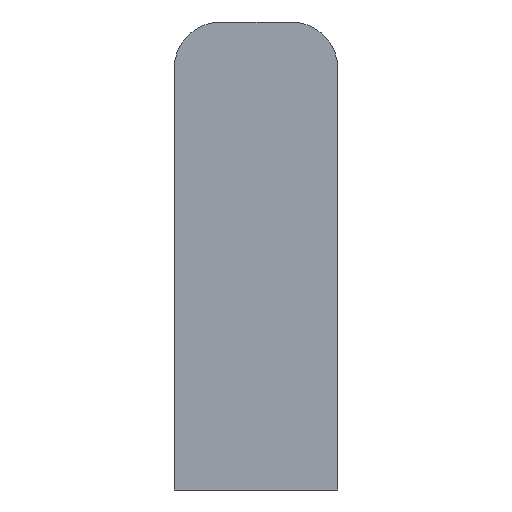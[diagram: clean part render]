
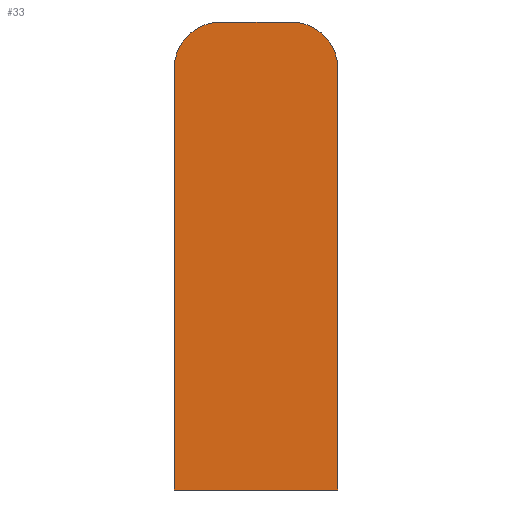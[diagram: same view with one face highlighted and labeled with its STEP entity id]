
A CAD part, front view. The second image highlights one B-rep face of the part: STEP entity #33.
In plain terms, the highlighted planar face has unit normal (0, -1, 0).
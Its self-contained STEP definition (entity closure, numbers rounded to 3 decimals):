
#8 = EDGE_CURVE ( 'NONE', #124, #140, #41, .T. ) ;
#16 = EDGE_CURVE ( 'NONE', #128, #124, #193, .T. ) ;
#33 = ADVANCED_FACE ( 'NONE', ( #206 ), #266, .F. ) ;
#41 = LINE ( 'NONE', #144, #177 ) ;
#49 = EDGE_LOOP ( 'NONE', ( #94, #93, #92, #91, #90, #89 ) ) ;
#89 = ORIENTED_EDGE ( 'NONE', *, *, #16, .T. ) ;
#90 = ORIENTED_EDGE ( 'NONE', *, *, #407, .T. ) ;
#91 = ORIENTED_EDGE ( 'NONE', *, *, #410, .T. ) ;
#92 = ORIENTED_EDGE ( 'NONE', *, *, #409, .T. ) ;
#93 = ORIENTED_EDGE ( 'NONE', *, *, #408, .T. ) ;
#94 = ORIENTED_EDGE ( 'NONE', *, *, #8, .T. ) ;
#121 = DIRECTION ( 'NONE',  ( 0., 0., 1. ) ) ;
#124 = VERTEX_POINT ( 'NONE', #305 ) ;
#128 = VERTEX_POINT ( 'NONE', #315 ) ;
#130 = VERTEX_POINT ( 'NONE', #316 ) ;
#134 = VERTEX_POINT ( 'NONE', #322 ) ;
#136 = VERTEX_POINT ( 'NONE', #324 ) ;
#140 = VERTEX_POINT ( 'NONE', #328 ) ;
#144 = CARTESIAN_POINT ( 'NONE',  ( 5.25, 0., -16.5 ) ) ;
#148 = VECTOR ( 'NONE', #371, 1000. ) ;
#151 = CIRCLE ( 'NONE', #165, 3. ) ;
#152 = CIRCLE ( 'NONE', #170, 3. ) ;
#165 = AXIS2_PLACEMENT_3D ( 'NONE', #359, #368, #369 ) ;
#170 = AXIS2_PLACEMENT_3D ( 'NONE', #363, #374, #375 ) ;
#177 = VECTOR ( 'NONE', #121, 1000. ) ;
#193 = LINE ( 'NONE', #282, #194 ) ;
#194 = VECTOR ( 'NONE', #281, 1000. ) ;
#206 = FACE_OUTER_BOUND ( 'NONE', #49, .T. ) ;
#237 = VECTOR ( 'NONE', #367, 1000. ) ;
#241 = LINE ( 'NONE', #366, #237 ) ;
#243 = LINE ( 'NONE', #370, #148 ) ;
#245 = DIRECTION ( 'NONE',  ( 0., 1., 0. ) ) ;
#246 = DIRECTION ( 'NONE',  ( -1., 0., 0. ) ) ;
#260 = CARTESIAN_POINT ( 'NONE',  ( 0., 0., -1.5 ) ) ;
#266 = PLANE ( 'NONE',  #401 ) ;
#281 = DIRECTION ( 'NONE',  ( 1., 0., 0. ) ) ;
#282 = CARTESIAN_POINT ( 'NONE',  ( 5.25, 0., -16.5 ) ) ;
#305 = CARTESIAN_POINT ( 'NONE',  ( 5.25, 0., -16.5 ) ) ;
#315 = CARTESIAN_POINT ( 'NONE',  ( -5.25, 0., -16.5 ) ) ;
#316 = CARTESIAN_POINT ( 'NONE',  ( -5.25, 0., 10.5 ) ) ;
#322 = CARTESIAN_POINT ( 'NONE',  ( 2.25, 0., 13.5 ) ) ;
#324 = CARTESIAN_POINT ( 'NONE',  ( -2.25, 0., 13.5 ) ) ;
#328 = CARTESIAN_POINT ( 'NONE',  ( 5.25, 0., 10.5 ) ) ;
#359 = CARTESIAN_POINT ( 'NONE',  ( 2.25, 0., 10.5 ) ) ;
#363 = CARTESIAN_POINT ( 'NONE',  ( -2.25, 0., 10.5 ) ) ;
#366 = CARTESIAN_POINT ( 'NONE',  ( -5.25, 0., -16.5 ) ) ;
#367 = DIRECTION ( 'NONE',  ( 0., 0., -1. ) ) ;
#368 = DIRECTION ( 'NONE',  ( 0., -1., 0. ) ) ;
#369 = DIRECTION ( 'NONE',  ( -1., 0., 0. ) ) ;
#370 = CARTESIAN_POINT ( 'NONE',  ( 2.25, 0., 13.5 ) ) ;
#371 = DIRECTION ( 'NONE',  ( -1., 0., 0. ) ) ;
#374 = DIRECTION ( 'NONE',  ( 0., -1., 0. ) ) ;
#375 = DIRECTION ( 'NONE',  ( -1., 0., 0. ) ) ;
#401 = AXIS2_PLACEMENT_3D ( 'NONE', #260, #245, #246 ) ;
#407 = EDGE_CURVE ( 'NONE', #130, #128, #241, .T. ) ;
#408 = EDGE_CURVE ( 'NONE', #140, #134, #151, .T. ) ;
#409 = EDGE_CURVE ( 'NONE', #134, #136, #243, .T. ) ;
#410 = EDGE_CURVE ( 'NONE', #136, #130, #152, .T. ) ;
